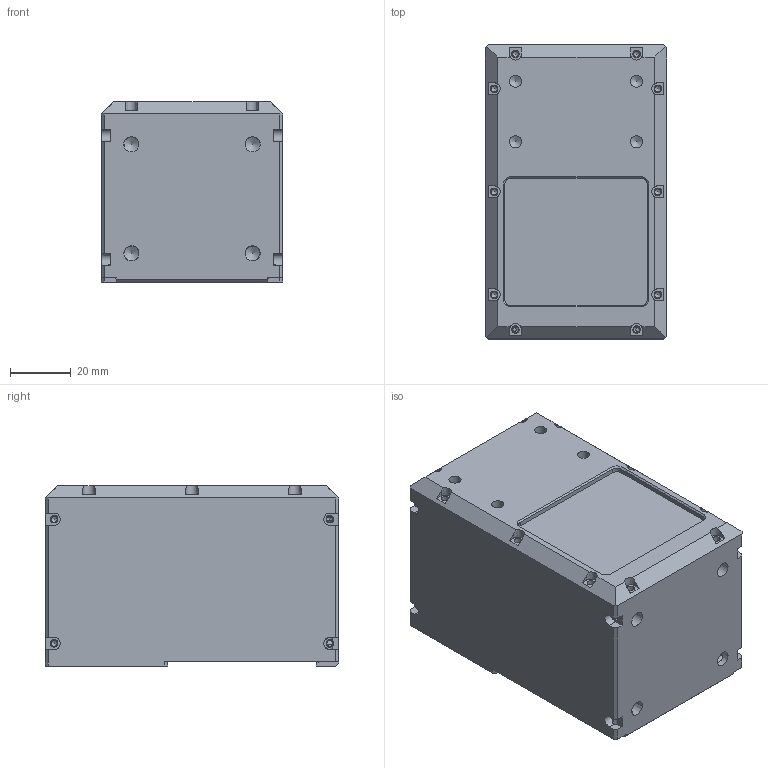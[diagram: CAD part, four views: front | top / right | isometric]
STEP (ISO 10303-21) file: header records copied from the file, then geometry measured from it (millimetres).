
FILE_DESCRIPTION((''),'2;1');
FILE_NAME('D:\上海创波-20181114\2-三维图纸\1-常用光源\WLFV系列\WLFV-50-0000-USER.stp','2020-01-09T14:53:51',('Administrator'),(''),'Autodesk Inventor 2010','Autodesk Inventor 2010','');
FILE_SCHEMA(('AUTOMOTIVE_DESIGN { 1 0 10303 214 1 1 1 1 }'));
Length unit declared in the file: millimetre
Products named in the file (1): 零件1
Bounding box: 60 x 97 x 59.5 mm (x, y, z)
Volume: 118164.4 mm3; surface area: 65378.7 mm2
Topology: 1 solids, 1 shells, 400 faces, 1122 edges, 724 vertices
Faces by surface type: plane 210, bspline 150, cylinder 27, cone 13
Full cylindrical faces by diameter (mm): 2 x10, 2.5 x7
Entity records: 13208 total; most frequent: CARTESIAN_POINT 4335, ORIENTED_EDGE 1814, DIRECTION 1633, EDGE_CURVE 907, VECTOR 635, LINE 635, VERTEX_POINT 630, EDGE_LOOP 555
